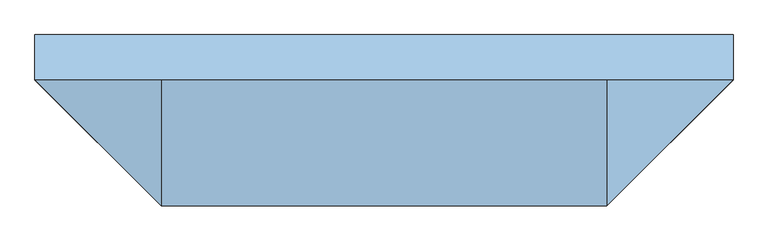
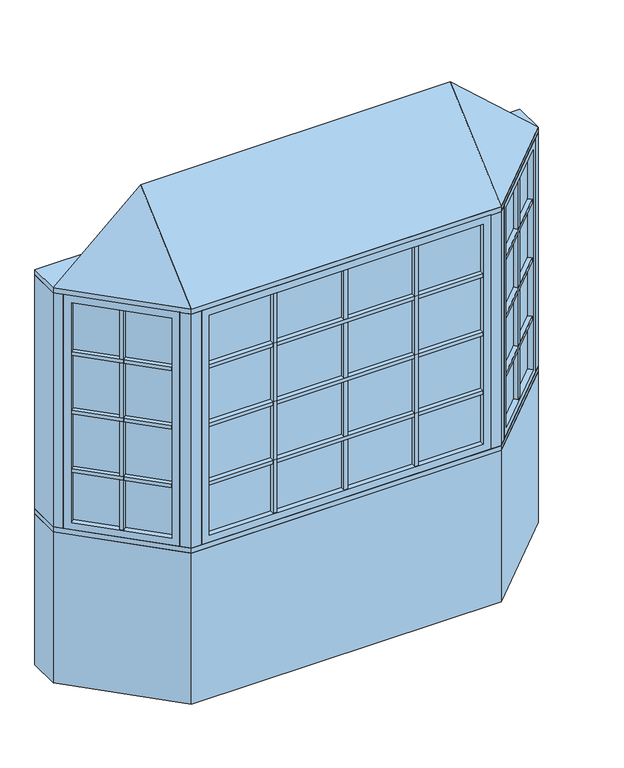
"""IFC4 building model written with IfcOpenShell, lengths in millimetres: window geometry, Pollard_Windows_Tudor Casement Bows and Bays : AML-BAY 45 AFR0612-12-500_GC."""

from ifc_helpers import new_model, si_unit, frame, origin, origin_with_axes, place, context, project, spatial, polyline, outline, extrude, faceted_brep, source, transform, mapped, element, save


def window_b217e473(model_context):
    return source(origin(), model_context, "Body", "SolidModel", [
        extrude(outline(polyline([(809.3614193, -437.1108753), (793.8050701, -421.5545261), (1101.616171, -113.7434252), (1117.1725202, -129.2997743), (809.3614193, -437.1108753)])), frame((0.0, 0.0, 1390.998), z_axis=(0.0, 0.0, 1.0), x_axis=(1.0, 0.0, 0.0)), (0.0, 0.0, 1.0), 18.0),
        extrude(outline(polyline([(790.2129677, -417.9624236), (774.6566185, -402.4060744), (1082.4677194, -94.5949735), (1098.0240686, -110.1513227), (790.2129677, -417.9624236)])), frame((0.0, 0.0, 1390.998), z_axis=(0.0, 0.0, 1.0), x_axis=(1.0, 0.0, 0.0)), (0.0, 0.0, 1.0), 18.0),
        extrude(outline(polyline([(809.3614193, -437.1108753), (793.8050701, -421.5545261), (1101.616171, -113.7434252), (1117.1725202, -129.2997743), (809.3614193, -437.1108753)])), frame((0.0, 0.0, 1090.998), z_axis=(0.0, 0.0, 1.0), x_axis=(1.0, 0.0, 0.0)), (0.0, 0.0, 1.0), 18.0),
        extrude(outline(polyline([(790.2129677, -417.9624236), (774.6566185, -402.4060744), (1082.4677194, -94.5949735), (1098.0240686, -110.1513227), (790.2129677, -417.9624236)])), frame((0.0, 0.0, 1090.998), z_axis=(0.0, 0.0, 1.0), x_axis=(1.0, 0.0, 0.0)), (0.0, 0.0, 1.0), 18.0),
        extrude(outline(polyline([(809.3614193, -437.1108753), (793.8050701, -421.5545261), (1101.616171, -113.7434252), (1117.1725202, -129.2997743), (809.3614193, -437.1108753)])), frame((0.0, 0.0, 1390.998), z_axis=(0.0, 0.0, 1.0), x_axis=(1.0, 0.0, 0.0)), (0.0, 0.0, 1.0), 18.0),
        extrude(outline(polyline([(790.2129677, -417.9624236), (774.6566185, -402.4060744), (1082.4677194, -94.5949735), (1098.0240686, -110.1513227), (790.2129677, -417.9624236)])), frame((0.0, 0.0, 1390.998), z_axis=(0.0, 0.0, 1.0), x_axis=(1.0, 0.0, 0.0)), (0.0, 0.0, 1.0), 18.0),
        extrude(outline(polyline([(809.3614193, -437.1108753), (793.8050701, -421.5545261), (1101.616171, -113.7434252), (1117.1725202, -129.2997743), (809.3614193, -437.1108753)])), frame((0.0, 0.0, 1390.998), z_axis=(0.0, 0.0, 1.0), x_axis=(1.0, 0.0, 0.0)), (0.0, 0.0, 1.0), 18.0),
        extrude(outline(polyline([(790.2129677, -417.9624236), (774.6566185, -402.4060744), (1082.4677194, -94.5949735), (1098.0240686, -110.1513227), (790.2129677, -417.9624236)])), frame((0.0, 0.0, 1390.998), z_axis=(0.0, 0.0, 1.0), x_axis=(1.0, 0.0, 0.0)), (0.0, 0.0, 1.0), 18.0),
        extrude(outline(polyline([(809.3614193, -437.1108753), (793.8050701, -421.5545261), (1101.616171, -113.7434252), (1117.1725202, -129.2997743), (809.3614193, -437.1108753)])), frame((0.0, 0.0, 1690.998), z_axis=(0.0, 0.0, 1.0), x_axis=(1.0, 0.0, 0.0)), (0.0, 0.0, 1.0), 18.0),
        extrude(outline(polyline([(790.2129677, -417.9624236), (774.6566185, -402.4060744), (1082.4677194, -94.5949735), (1098.0240686, -110.1513227), (790.2129677, -417.9624236)])), frame((0.0, 0.0, 1690.998), z_axis=(0.0, 0.0, 1.0), x_axis=(1.0, 0.0, 0.0)), (0.0, 0.0, 1.0), 18.0),
        extrude(outline(polyline([(954.0745816, -261.2850146), (969.6309308, -276.8413638), (956.9030087, -289.5692858), (941.3466595, -274.0129366), (954.0745816, -261.2850146)])), frame((0.0, 0.0, 835.8628), z_axis=(0.0, 0.0, 1.0), x_axis=(1.0, 0.0, 0.0)), (0.0, 0.0, 1.0), 1128.2704),
        extrude(outline(polyline([(950.4824791, -257.6929121), (937.7545571, -270.4208342), (922.1982079, -254.864485), (934.92613, -242.1365629), (950.4824791, -257.6929121)])), frame((0.0, 0.0, 835.8628), z_axis=(0.0, 0.0, 1.0), x_axis=(1.0, 0.0, 0.0)), (0.0, 0.0, 1.0), 1128.2704),
        extrude(outline(polyline([(1110.5964271, -104.763169), (784.824814, -430.5347822), (781.2327115, -426.9426797), (1107.0043247, -101.1710666), (1110.5964271, -104.763169)])), frame((0.0, 0.0, 823.1628), z_axis=(0.0, 0.0, 1.0), x_axis=(1.0, 0.0, 0.0)), (0.0, 0.0, 1.0), 1153.6704),
        faceted_brep([(1101.616171, -113.7434252, 835.8628), (1119.5766833, -131.7039374, 835.8628), (1119.5766833, -131.7039374, 1964.1332), (1101.616171, -113.7434252, 1964.1332), (1107.0043247, -101.1710666, 823.1628), (1110.5964271, -104.763169, 823.1628), (1110.5964271, -104.763169, 1976.8332), (1107.0043247, -101.1710666, 1976.8332), (1080.0635563, -92.1908105, 835.8628), (1098.0240686, -110.1513227, 835.8628), (1098.0240686, -110.1513227, 1964.1332), (1080.0635563, -92.1908105, 1964.1332), (1144.9369265, -106.3436941, 799.998), (1105.4237996, -66.8305672, 799.998), (1105.4237996, -66.8305672, 1999.998), (1144.9369265, -106.3436941, 1999.998), (811.7655823, -439.5150383, 1964.1332), (793.8050701, -421.5545261, 1964.1332), (784.824814, -430.5347822, 1976.8332), (781.2327115, -426.9426797, 1976.8332), (790.2129677, -417.9624236, 1964.1332), (772.2524554, -400.0019114, 1964.1332), (746.8922121, -425.3621547, 1999.998), (786.4053391, -464.8752816, 1999.998), (811.7655823, -439.5150383, 835.8628), (793.8050701, -421.5545261, 835.8628), (784.824814, -430.5347822, 823.1628), (781.2327115, -426.9426797, 823.1628), (790.2129677, -417.9624236, 835.8628), (772.2524554, -400.0019114, 835.8628), (746.8922121, -425.3621547, 799.998), (786.4053391, -464.8752816, 799.998)], [[[0, 1, 2, 3]], [[4, 5, 6, 7]], [[8, 9, 10, 11]], [[12, 13, 14, 15]], [[3, 2, 16, 17]], [[7, 6, 18, 19]], [[11, 10, 20, 21]], [[15, 14, 22, 23]], [[17, 16, 24, 25]], [[19, 18, 26, 27]], [[21, 20, 28, 29]], [[23, 22, 30, 31]], [[25, 24, 1, 0]], [[5, 26, 18, 6], [3, 17, 25, 0]], [[27, 26, 5, 4]], [[7, 19, 27, 4], [9, 28, 20, 10]], [[29, 28, 9, 8]], [[13, 30, 22, 14], [11, 21, 29, 8]], [[31, 30, 13, 12]], [[15, 23, 31, 12], [1, 24, 16, 2]]]),
        extrude(outline(polyline([(352.4427, -474.8306207), (352.4427, -496.8306207), (334.4427, -496.8306207), (334.4427, -474.8306207), (352.4427, -474.8306207)])), frame((0.0, 0.0, 835.8628), z_axis=(0.0, 0.0, 1.0), x_axis=(1.0, 0.0, 0.0)), (0.0, 0.0, 1.0), 1128.2704),
        extrude(outline(polyline([(352.4427, -469.7506207), (334.4427, -469.7506207), (334.4427, -447.7506207), (352.4427, -447.7506207), (352.4427, -469.7506207)])), frame((0.0, 0.0, 835.8628), z_axis=(0.0, 0.0, 1.0), x_axis=(1.0, 0.0, 0.0)), (0.0, 0.0, 1.0), 1128.2704),
        extrude(outline(polyline([(-334.4427, -474.8306207), (-334.4427, -496.8306207), (-352.4427, -496.8306207), (-352.4427, -474.8306207), (-334.4427, -474.8306207)])), frame((0.0, 0.0, 835.8628), z_axis=(0.0, 0.0, 1.0), x_axis=(1.0, 0.0, 0.0)), (0.0, 0.0, 1.0), 1128.2704),
        extrude(outline(polyline([(-334.4427, -469.7506207), (-352.4427, -469.7506207), (-352.4427, -447.7506207), (-334.4427, -447.7506207), (-334.4427, -469.7506207)])), frame((0.0, 0.0, 835.8628), z_axis=(0.0, 0.0, 1.0), x_axis=(1.0, 0.0, 0.0)), (0.0, 0.0, 1.0), 1128.2704),
        extrude(outline(polyline([(-665.1852, -496.8306207), (-665.1852, -474.8306207), (665.1852, -474.8306207), (665.1852, -496.8306207), (-665.1852, -496.8306207)])), frame((0.0, 0.0, 1090.998), z_axis=(0.0, 0.0, 1.0), x_axis=(1.0, 0.0, 0.0)), (0.0, 0.0, 1.0), 18.0),
        extrude(outline(polyline([(-665.1852, -469.7506207), (-665.1852, -447.7506207), (665.1852, -447.7506207), (665.1852, -469.7506207), (-665.1852, -469.7506207)])), frame((0.0, 0.0, 1090.998), z_axis=(0.0, 0.0, 1.0), x_axis=(1.0, 0.0, 0.0)), (0.0, 0.0, 1.0), 18.0),
        extrude(outline(polyline([(-665.1852, -496.8306207), (-665.1852, -474.8306207), (665.1852, -474.8306207), (665.1852, -496.8306207), (-665.1852, -496.8306207)])), frame((0.0, 0.0, 1390.998), z_axis=(0.0, 0.0, 1.0), x_axis=(1.0, 0.0, 0.0)), (0.0, 0.0, 1.0), 18.0),
        extrude(outline(polyline([(-665.1852, -469.7506207), (-665.1852, -447.7506207), (665.1852, -447.7506207), (665.1852, -469.7506207), (-665.1852, -469.7506207)])), frame((0.0, 0.0, 1390.998), z_axis=(0.0, 0.0, 1.0), x_axis=(1.0, 0.0, 0.0)), (0.0, 0.0, 1.0), 18.0),
        extrude(outline(polyline([(-665.1852, -496.8306207), (-665.1852, -474.8306207), (665.1852, -474.8306207), (665.1852, -496.8306207), (-665.1852, -496.8306207)])), frame((0.0, 0.0, 1390.998), z_axis=(0.0, 0.0, 1.0), x_axis=(1.0, 0.0, 0.0)), (0.0, 0.0, 1.0), 18.0),
        extrude(outline(polyline([(-665.1852, -469.7506207), (-665.1852, -447.7506207), (665.1852, -447.7506207), (665.1852, -469.7506207), (-665.1852, -469.7506207)])), frame((0.0, 0.0, 1390.998), z_axis=(0.0, 0.0, 1.0), x_axis=(1.0, 0.0, 0.0)), (0.0, 0.0, 1.0), 18.0),
        extrude(outline(polyline([(-665.1852, -496.8306207), (-665.1852, -474.8306207), (665.1852, -474.8306207), (665.1852, -496.8306207), (-665.1852, -496.8306207)])), frame((0.0, 0.0, 1390.998), z_axis=(0.0, 0.0, 1.0), x_axis=(1.0, 0.0, 0.0)), (0.0, 0.0, 1.0), 18.0),
        extrude(outline(polyline([(-665.1852, -469.7506207), (-665.1852, -447.7506207), (665.1852, -447.7506207), (665.1852, -469.7506207), (-665.1852, -469.7506207)])), frame((0.0, 0.0, 1390.998), z_axis=(0.0, 0.0, 1.0), x_axis=(1.0, 0.0, 0.0)), (0.0, 0.0, 1.0), 18.0),
        extrude(outline(polyline([(-1117.1725202, -129.2997743), (-1101.616171, -113.7434252), (-793.8050701, -421.5545261), (-809.3614193, -437.1108753), (-1117.1725202, -129.2997743)])), frame((0.0, 0.0, 1090.998), z_axis=(0.0, 0.0, 1.0), x_axis=(1.0, 0.0, 0.0)), (0.0, 0.0, 1.0), 18.0),
        extrude(outline(polyline([(-1098.0240686, -110.1513227), (-1082.4677194, -94.5949735), (-774.6566185, -402.4060744), (-790.2129677, -417.9624236), (-1098.0240686, -110.1513227)])), frame((0.0, 0.0, 1090.998), z_axis=(0.0, 0.0, 1.0), x_axis=(1.0, 0.0, 0.0)), (0.0, 0.0, 1.0), 18.0),
        extrude(outline(polyline([(-1117.1725202, -129.2997743), (-1101.616171, -113.7434252), (-793.8050701, -421.5545261), (-809.3614193, -437.1108753), (-1117.1725202, -129.2997743)])), frame((0.0, 0.0, 1390.998), z_axis=(0.0, 0.0, 1.0), x_axis=(1.0, 0.0, 0.0)), (0.0, 0.0, 1.0), 18.0),
        extrude(outline(polyline([(-1098.0240686, -110.1513227), (-1082.4677194, -94.5949735), (-774.6566185, -402.4060744), (-790.2129677, -417.9624236), (-1098.0240686, -110.1513227)])), frame((0.0, 0.0, 1390.998), z_axis=(0.0, 0.0, 1.0), x_axis=(1.0, 0.0, 0.0)), (0.0, 0.0, 1.0), 18.0),
        extrude(outline(polyline([(-1117.1725202, -129.2997743), (-1101.616171, -113.7434252), (-793.8050701, -421.5545261), (-809.3614193, -437.1108753), (-1117.1725202, -129.2997743)])), frame((0.0, 0.0, 1390.998), z_axis=(0.0, 0.0, 1.0), x_axis=(1.0, 0.0, 0.0)), (0.0, 0.0, 1.0), 18.0),
        extrude(outline(polyline([(-1098.0240686, -110.1513227), (-1082.4677194, -94.5949735), (-774.6566185, -402.4060744), (-790.2129677, -417.9624236), (-1098.0240686, -110.1513227)])), frame((0.0, 0.0, 1390.998), z_axis=(0.0, 0.0, 1.0), x_axis=(1.0, 0.0, 0.0)), (0.0, 0.0, 1.0), 18.0),
        extrude(outline(polyline([(-1117.1725202, -129.2997743), (-1101.616171, -113.7434252), (-793.8050701, -421.5545261), (-809.3614193, -437.1108753), (-1117.1725202, -129.2997743)])), frame((0.0, 0.0, 1390.998), z_axis=(0.0, 0.0, 1.0), x_axis=(1.0, 0.0, 0.0)), (0.0, 0.0, 1.0), 18.0),
        extrude(outline(polyline([(-1098.0240686, -110.1513227), (-1082.4677194, -94.5949735), (-774.6566185, -402.4060744), (-790.2129677, -417.9624236), (-1098.0240686, -110.1513227)])), frame((0.0, 0.0, 1390.998), z_axis=(0.0, 0.0, 1.0), x_axis=(1.0, 0.0, 0.0)), (0.0, 0.0, 1.0), 18.0),
        extrude(outline(polyline([(-1117.1725202, -129.2997743), (-1101.616171, -113.7434252), (-793.8050701, -421.5545261), (-809.3614193, -437.1108753), (-1117.1725202, -129.2997743)])), frame((0.0, 0.0, 1690.998), z_axis=(0.0, 0.0, 1.0), x_axis=(1.0, 0.0, 0.0)), (0.0, 0.0, 1.0), 18.0),
        extrude(outline(polyline([(-1098.0240686, -110.1513227), (-1082.4677194, -94.5949735), (-774.6566185, -402.4060744), (-790.2129677, -417.9624236), (-1098.0240686, -110.1513227)])), frame((0.0, 0.0, 1690.998), z_axis=(0.0, 0.0, 1.0), x_axis=(1.0, 0.0, 0.0)), (0.0, 0.0, 1.0), 18.0),
        extrude(outline(polyline([(-665.1852, -496.8306207), (-665.1852, -474.8306207), (665.1852, -474.8306207), (665.1852, -496.8306207), (-665.1852, -496.8306207)])), frame((0.0, 0.0, 1690.998), z_axis=(0.0, 0.0, 1.0), x_axis=(1.0, 0.0, 0.0)), (0.0, 0.0, 1.0), 18.0),
        extrude(outline(polyline([(-665.1852, -469.7506207), (-665.1852, -447.7506207), (665.1852, -447.7506207), (665.1852, -469.7506207), (-665.1852, -469.7506207)])), frame((0.0, 0.0, 1690.998), z_axis=(0.0, 0.0, 1.0), x_axis=(1.0, 0.0, 0.0)), (0.0, 0.0, 1.0), 18.0),
        extrude(outline(polyline([(-941.3466595, -274.0129366), (-956.9030087, -289.5692858), (-969.6309308, -276.8413638), (-954.0745816, -261.2850146), (-941.3466595, -274.0129366)])), frame((0.0, 0.0, 835.8628), z_axis=(0.0, 0.0, 1.0), x_axis=(1.0, 0.0, 0.0)), (0.0, 0.0, 1.0), 1128.2704),
        extrude(outline(polyline([(-937.7545571, -270.4208342), (-950.4824791, -257.6929121), (-934.92613, -242.1365629), (-922.1982079, -254.864485), (-937.7545571, -270.4208342)])), frame((0.0, 0.0, 835.8628), z_axis=(0.0, 0.0, 1.0), x_axis=(1.0, 0.0, 0.0)), (0.0, 0.0, 1.0), 1128.2704),
        extrude(outline(polyline([(9.0, -474.8306207), (9.0, -496.8306207), (-9.0, -496.8306207), (-9.0, -474.8306207), (9.0, -474.8306207)])), frame((0.0, 0.0, 835.8628), z_axis=(0.0, 0.0, 1.0), x_axis=(1.0, 0.0, 0.0)), (0.0, 0.0, 1.0), 1128.2704),
        extrude(outline(polyline([(9.0, -469.7506207), (-9.0, -469.7506207), (-9.0, -447.7506207), (9.0, -447.7506207), (9.0, -469.7506207)])), frame((0.0, 0.0, 835.8628), z_axis=(0.0, 0.0, 1.0), x_axis=(1.0, 0.0, 0.0)), (0.0, 0.0, 1.0), 1128.2704),
        extrude(outline(polyline([(-784.824814, -430.5347822), (-1110.5964271, -104.763169), (-1107.0043247, -101.1710666), (-781.2327115, -426.9426797), (-784.824814, -430.5347822)])), frame((0.0, 0.0, 823.1628), z_axis=(0.0, 0.0, 1.0), x_axis=(1.0, 0.0, 0.0)), (0.0, 0.0, 1.0), 1153.6704),
        faceted_brep([(-790.2129677, -417.9624236, 1964.1332), (-772.2524554, -400.0019114, 1964.1332), (-772.2524554, -400.0019114, 835.8628), (-790.2129677, -417.9624236, 835.8628), (-784.824814, -430.5347822, 1976.8332), (-781.2327115, -426.9426797, 1976.8332), (-781.2327115, -426.9426797, 823.1628), (-784.824814, -430.5347822, 823.1628), (-811.7655823, -439.5150383, 1964.1332), (-793.8050701, -421.5545261, 1964.1332), (-793.8050701, -421.5545261, 835.8628), (-811.7655823, -439.5150383, 835.8628), (-746.8922121, -425.3621547, 1999.998), (-786.4053391, -464.8752816, 1999.998), (-786.4053391, -464.8752816, 799.998), (-746.8922121, -425.3621547, 799.998), (-1080.0635563, -92.1908105, 835.8628), (-1098.0240686, -110.1513227, 835.8628), (-1107.0043247, -101.1710666, 823.1628), (-1110.5964271, -104.763169, 823.1628), (-1101.616171, -113.7434252, 835.8628), (-1119.5766833, -131.7039374, 835.8628), (-1144.9369265, -106.3436941, 799.998), (-1105.4237996, -66.8305672, 799.998), (-1080.0635563, -92.1908105, 1964.1332), (-1098.0240686, -110.1513227, 1964.1332), (-1107.0043247, -101.1710666, 1976.8332), (-1110.5964271, -104.763169, 1976.8332), (-1101.616171, -113.7434252, 1964.1332), (-1119.5766833, -131.7039374, 1964.1332), (-1144.9369265, -106.3436941, 1999.998), (-1105.4237996, -66.8305672, 1999.998)], [[[0, 1, 2, 3]], [[4, 5, 6, 7]], [[8, 9, 10, 11]], [[12, 13, 14, 15]], [[3, 2, 16, 17]], [[7, 6, 18, 19]], [[11, 10, 20, 21]], [[15, 14, 22, 23]], [[17, 16, 24, 25]], [[19, 18, 26, 27]], [[21, 20, 28, 29]], [[23, 22, 30, 31]], [[15, 23, 31, 12], [1, 24, 16, 2]], [[25, 24, 1, 0]], [[5, 26, 18, 6], [3, 17, 25, 0]], [[27, 26, 5, 4]], [[7, 19, 27, 4], [9, 28, 20, 10]], [[29, 28, 9, 8]], [[13, 30, 22, 14], [11, 21, 29, 8]], [[31, 30, 13, 12]]]),
        extrude(outline(polyline([(677.8852, -474.8306207), (-677.8852, -474.8306207), (-677.8852, -469.7506207), (677.8852, -469.7506207), (677.8852, -474.8306207)])), frame((0.0, 0.0, 823.1628), z_axis=(0.0, 0.0, 1.0), x_axis=(1.0, 0.0, 0.0)), (0.0, 0.0, 1.0), 1153.6704),
        faceted_brep([(665.1852, -474.8306207, 835.8628), (665.1852, -500.2306207, 835.8628), (665.1852, -500.2306207, 1964.1332), (665.1852, -474.8306207, 1964.1332), (677.8852, -469.7506207, 823.1628), (677.8852, -474.8306207, 823.1628), (677.8852, -474.8306207, 1976.8332), (677.8852, -469.7506207, 1976.8332), (665.1852, -444.3506207, 835.8628), (665.1852, -469.7506207, 835.8628), (665.1852, -469.7506207, 1964.1332), (665.1852, -444.3506207, 1964.1332), (701.05, -500.2306207, 799.998), (701.05, -444.3506207, 799.998), (701.05, -444.3506207, 1999.998), (701.05, -500.2306207, 1999.998), (-665.1852, -500.2306207, 1964.1332), (-665.1852, -474.8306207, 1964.1332), (-677.8852, -474.8306207, 1976.8332), (-677.8852, -469.7506207, 1976.8332), (-665.1852, -469.7506207, 1964.1332), (-665.1852, -444.3506207, 1964.1332), (-701.05, -444.3506207, 1999.998), (-701.05, -500.2306207, 1999.998), (-665.1852, -500.2306207, 835.8628), (-665.1852, -474.8306207, 835.8628), (-677.8852, -474.8306207, 823.1628), (-677.8852, -469.7506207, 823.1628), (-665.1852, -469.7506207, 835.8628), (-665.1852, -444.3506207, 835.8628), (-701.05, -444.3506207, 799.998), (-701.05, -500.2306207, 799.998)], [[[0, 1, 2, 3]], [[4, 5, 6, 7]], [[8, 9, 10, 11]], [[12, 13, 14, 15]], [[3, 2, 16, 17]], [[7, 6, 18, 19]], [[11, 10, 20, 21]], [[15, 14, 22, 23]], [[17, 16, 24, 25]], [[19, 18, 26, 27]], [[21, 20, 28, 29]], [[23, 22, 30, 31]], [[15, 23, 31, 12], [1, 24, 16, 2]], [[25, 24, 1, 0]], [[5, 26, 18, 6], [3, 17, 25, 0]], [[27, 26, 5, 4]], [[7, 19, 27, 4], [9, 28, 20, 10]], [[29, 28, 9, 8]], [[13, 30, 22, 14], [11, 21, 29, 8]], [[31, 30, 13, 12]]]),
        faceted_brep([(1176.5, -74.7806207, 2025.398), (751.05, -500.2306207, 2025.398), (-751.05, -500.2306207, 2025.398), (-1176.5, -74.7806207, 2025.398), (-751.05, -74.7806207, 2406.398), (751.05, -74.7806207, 2406.398)], [[[0, 1, 2, 3]], [[3, 2, 4]], [[2, 1, 5, 4]], [[1, 0, 5]], [[0, 3, 4, 5]]]),
        extrude(outline(polyline([(-1176.5, 77.6193793), (1176.5, 77.6193793), (1176.5, -74.7806207), (751.05, -500.2306207), (-751.05, -500.2306207), (-1176.5, -74.7806207), (-1176.5, 77.6193793)])), frame((0.0, 0.0, 1999.998), z_axis=(0.0, 0.0, 1.0), x_axis=(1.0, 0.0, 0.0)), (0.0, 0.0, 1.0), 25.4),
        extrude(outline(polyline([(-1176.5, -74.7806207), (-1176.5, 77.6193793), (-1113.3738531, 77.6193793), (-1113.3738531, -74.7806207), (-1144.9369265, -106.3436941), (-1176.5, -74.7806207)])), frame((0.0, 0.0, 799.998), z_axis=(0.0, 0.0, 1.0), x_axis=(1.0, 0.0, 0.0)), (0.0, 0.0, 1.0), 1200.0),
        extrude(outline(polyline([(1176.5, 77.6193793), (1176.5, -74.7806207), (1144.9369265, -106.3436941), (1113.3738531, -74.7806207), (1113.3738531, 77.6193793), (1176.5, 77.6193793)])), frame((0.0, 0.0, 799.998), z_axis=(0.0, 0.0, 1.0), x_axis=(1.0, 0.0, 0.0)), (0.0, 0.0, 1.0), 1200.0),
        extrude(outline(polyline([(751.05, -500.2306207), (701.05, -500.2306207), (701.05, -450.2306207), (730.3393219, -450.2306207), (751.05, -429.5199425), (786.4053391, -464.8752816), (751.05, -500.2306207)])), frame((0.0, 0.0, 799.998), z_axis=(0.0, 0.0, 1.0), x_axis=(1.0, 0.0, 0.0)), (0.0, 0.0, 1.0), 1200.0),
        extrude(outline(polyline([(-751.05, -500.2306207), (-786.4053391, -464.8752816), (-751.05, -429.5199425), (-730.3393219, -450.2306207), (-701.05, -450.2306207), (-701.05, -500.2306207), (-751.05, -500.2306207)])), frame((0.0, 0.0, 799.998), z_axis=(0.0, 0.0, 1.0), x_axis=(1.0, 0.0, 0.0)), (0.0, 0.0, 1.0), 1200.0),
        extrude(outline(polyline([(-751.05, -500.2306207), (-1176.5, -74.7806207), (-1176.5, 77.6193793), (-1113.3738531, 77.6193793), (-687.9238531, -347.8306207), (687.9238531, -347.8306207), (1113.3738531, 77.6193793), (1176.5, 77.6193793), (1176.5, -74.7806207), (751.05, -500.2306207), (-751.05, -500.2306207)])), frame((0.0, 0.0, 774.598), z_axis=(0.0, 0.0, 1.0), x_axis=(1.0, 0.0, 0.0)), (0.0, 0.0, 1.0), 25.4),
        extrude(outline(polyline([(-1176.5, -74.7806207), (-1176.5, 77.6193793), (-1113.3738531, 77.6193793), (-687.9238531, -347.8306207), (687.9238531, -347.8306207), (1113.3738531, 77.6193793), (1176.5, 77.6193793), (1176.5, -74.7806207), (751.05, -500.2306207), (-751.05, -500.2306207), (-1176.5, -74.7806207)])), origin_with_axes(), (0.0, 0.0, 1.0), 774.598),
    ])


if __name__ == "__main__":
    model = new_model("IFC4")
    model_context = context("Model", 3, world=origin())
    ifc_project = project(units=[si_unit("LENGTHUNIT", "METRE", prefix="MILLI")], contexts=[model_context])
    site = spatial("IfcSite", under=ifc_project)
    building = spatial("IfcBuilding", under=site)
    placement = place(None, origin())
    window_shape = window_b217e473(model_context)
    element("IfcWindow", 1, ObjectType="Pollard_Windows_Tudor Casement Bows and Bays : AML-BAY 45 AFR0612-12-500_GC", at=placement, inside=building, context=model_context, shape_type="MappedRepresentation", body=[
        mapped(window_shape, transform((0.0, 0.0, 0.0), x_axis=(1.0, 0.0, 0.0), y_axis=(0.0, 1.0, 0.0), z_axis=(0.0, 0.0, 1.0))),
    ])
    save(model, "model.ifc")
